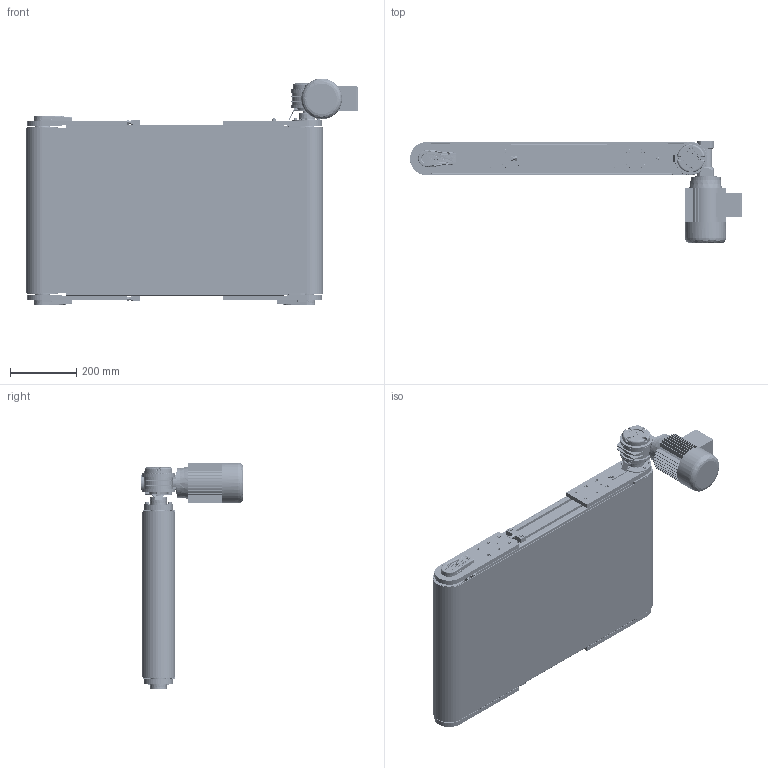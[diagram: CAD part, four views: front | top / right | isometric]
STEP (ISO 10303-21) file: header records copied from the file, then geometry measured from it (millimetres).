
FILE_DESCRIPTION (( 'STEP AP203' ), '1' );
FILE_NAME ('NASTRO_RETTILINEO_TAPPETO.step', '2026-06-06T00:26:34', ( 'Utente Windows' ), ( '' ), 'SwSTEP 2.0', 'SolidWorks 2024', '' );
FILE_SCHEMA (( 'CONFIG_CONTROL_DESIGN' ));
Length unit declared in the file: millimetre
Products named in the file (40): RULLO_95_CINGHIE_Default<A macchina>; 084.301.000 VITI ALUSIC_084.301.003; VITI TCEI UNI 5931_M4x25 UNI 5931; 084.803.003; TELAIO_95_CINGHIE_Default<A macchina>; 084.808.003_084.808.003; 084.302.060; NASTRO_RETTILINEO_TAPPETO; VITI TCEI UNI 5931_M6x12 UNI 5931; 084.802.067_Default<A macchina>; DADO ESAGONALE M30 AUTOBLOCCANTE UNI 7473_M30 UNI 7473; TAPPETO_STANDARD_CINGHIE; BLOCCO_RINVIO_95_STANDARD_CON TENDINASTRO E CARTER; VITE_DADO_M5X12; 084.808.012; CH04P_DX; GUIDA_CINGHIA_Z_95; VITI TE UNI 5739_M6x16 UNI 5739; BLOCCO_TRAINO_95_STANDARD_44_DX_dx; VITE_RONDELLA_M8X20; 084.802.019_084.802.019; 084.302.000 DADI ALUSIC 13x13-1_084.302.004; 084.808.002_084.808.002; 084.302.000 DADI ALUSIC 13x13-1_084.302.007; 084.802.060_Default<A macchina>; PERNO_95_RINVIO_CINGHIE; 084.802.034_084.802.034; 449.014.106; 084.303.001; 084.802.071; 084.803.018; 084.802.062; 0820ISO2342; 084.802.068; BLOCCO_BRACCIO_CH04P_V2_VF44P V2; VITI TSEI UNI 5933_M4x12 UNI 5933; LAMIERA_STANDARD; VITI TSEI UNI 5933_M5x12 UNI 5933; BLOCCO_TRAINO_95_STANDARD_CON TENDINASTRO E CARTER; PERNO_95_TRAINO_CINGHIE_44_DX_Default<A macchina>
Assembly tree (93 placements, depth 4):
  NASTRO_RETTILINEO_TAPPETO
    TAPPETO_STANDARD_CINGHIE
    TELAIO_95_CINGHIE_Default<A macchina>
    LAMIERA_STANDARD
    RULLO_95_CINGHIE_Default<A macchina>  x2
    PERNO_95_TRAINO_CINGHIE_44_DX_Default<A macchina>
    BLOCCO_TRAINO_95_STANDARD_44_DX_dx
      084.808.003_084.808.003
      084.302.060  x2
      084.802.034_084.802.034
      084.301.000 VITI ALUSIC_084.301.003  x6
      VITI TCEI UNI 5931_M4x25 UNI 5931  x2
      084.802.067_Default<A macchina>
      BLOCCO_BRACCIO_CH04P_V2_VF44P V2
        084.808.012
        084.802.062
        0820ISO2342
        084.803.018
        VITI TCEI UNI 5931_M6x12 UNI 5931  x4
        VITI TE UNI 5739_M6x16 UNI 5739  x4
        084.802.060_Default<A macchina>
    BLOCCO_TRAINO_95_STANDARD_CON TENDINASTRO E CARTER
      084.808.002_084.808.002
      084.302.060  x2
      084.802.019_084.802.019
      084.301.000 VITI ALUSIC_084.301.003  x6
      VITI TCEI UNI 5931_M4x25 UNI 5931  x2
      084.802.071
      084.802.068
      VITI TSEI UNI 5933_M4x12 UNI 5933  x2
    GUIDA_CINGHIA_Z_95  x4
      449.014.106
      DADO ESAGONALE M30 AUTOBLOCCANTE UNI 7473_M30 UNI 7473
    PERNO_95_RINVIO_CINGHIE
    BLOCCO_RINVIO_95_STANDARD_CON TENDINASTRO E CARTER  x2
      084.808.002_084.808.002
      084.803.003
      084.302.060
      084.802.019_084.802.019
      VITI TSEI UNI 5933_M4x12 UNI 5933
      084.302.000 DADI ALUSIC 13x13-1_084.302.004
      084.301.000 VITI ALUSIC_084.301.003
      084.802.071
    VITE_RONDELLA_M8X20  x6
      084.303.001
      084.301.000 VITI ALUSIC_084.301.003
    VITE_DADO_M5X12  x4
      084.302.000 DADI ALUSIC 13x13-1_084.302.007
      VITI TSEI UNI 5933_M5x12 UNI 5933
    CH04P_DX
Bounding box: 1004.1 x 311 x 686.5 mm (x, y, z)
Volume: 14113403.4 mm3; surface area: 6393818.9 mm2
Topology: 134 solids, 144 shells, 6537 faces, 16640 edges, 10565 vertices
Faces by surface type: plane 3204, cylinder 1684, cone 663, bspline 613, torus 317, sphere 56
Entity records: 139596 total; most frequent: CARTESIAN_POINT 44357, ORIENTED_EDGE 19476, DIRECTION 17808, EDGE_CURVE 9738, AXIS2_PLACEMENT_3D 6260, VERTEX_POINT 6208, VECTOR 5288, LINE 5288
